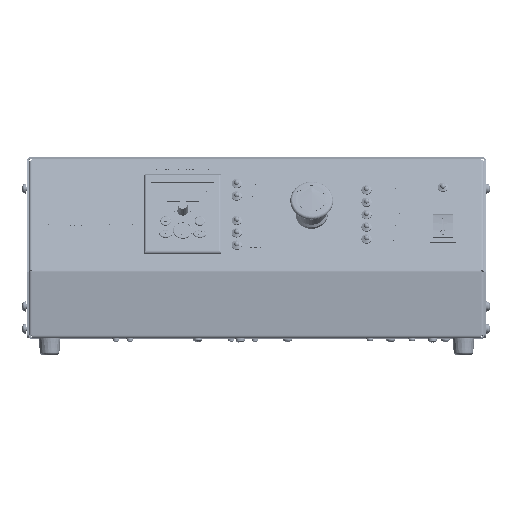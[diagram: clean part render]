
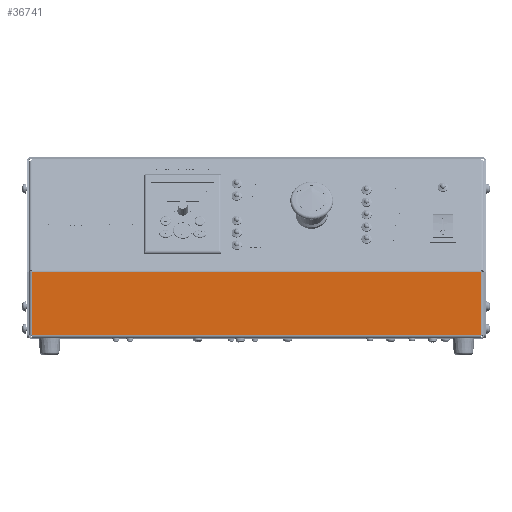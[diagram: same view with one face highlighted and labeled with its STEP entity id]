
A CAD part, top view. The second image highlights one B-rep face of the part: STEP entity #36741.
In plain terms, the highlighted planar face has unit normal (0, 0, 1).
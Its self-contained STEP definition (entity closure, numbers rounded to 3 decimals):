
#36741=ADVANCED_FACE('',(#268727),#268729,.F.);
#268727=FACE_BOUND('',#268728,.T.);
#268728=EDGE_LOOP('',(#471035,#471036,#471037,#471038));
#268729=PLANE('',#268730);
#268730=AXIS2_PLACEMENT_3D('',#268731,#268732,#268733);
#268731=CARTESIAN_POINT('',(0.,-167.299,170.));
#268732=DIRECTION('',(0.,0.,-1.));
#268733=DIRECTION('',(1.,0.,0.));
#471035=ORIENTED_EDGE('',*,*,#617129,.T.);
#471036=ORIENTED_EDGE('',*,*,#612257,.T.);
#471037=ORIENTED_EDGE('',*,*,#612205,.T.);
#471038=ORIENTED_EDGE('',*,*,#612541,.T.);
#612205=EDGE_CURVE('',#693018,#693019,#693020,.T.);
#612257=EDGE_CURVE('',#693099,#693018,#693100,.T.);
#612541=EDGE_CURVE('',#693019,#693525,#693527,.T.);
#617129=EDGE_CURVE('',#693525,#693099,#700712,.T.);
#693018=VERTEX_POINT('',#833349);
#693019=VERTEX_POINT('',#833350);
#693020=LINE('',#833351,#833352);
#693099=VERTEX_POINT('',#833553);
#693100=LINE('',#833554,#833555);
#693525=VERTEX_POINT('',#834649);
#693527=LINE('',#834654,#834655);
#700712=LINE('',#852909,#852910);
#833349=CARTESIAN_POINT('',(-210.,3.,170.));
#833350=CARTESIAN_POINT('',(210.,3.,170.));
#833351=CARTESIAN_POINT('',(-210.,3.,170.));
#833352=VECTOR('',#833353,1.);
#833353=DIRECTION('',(1.,0.,0.));
#833553=CARTESIAN_POINT('',(-210.,62.196,170.));
#833554=CARTESIAN_POINT('',(-210.,62.196,170.));
#833555=VECTOR('',#833556,1.);
#833556=DIRECTION('',(0.,-1.,0.));
#834649=CARTESIAN_POINT('',(210.,62.196,170.));
#834654=CARTESIAN_POINT('',(210.,3.,170.));
#834655=VECTOR('',#834656,1.);
#834656=DIRECTION('',(0.,1.,0.));
#852909=CARTESIAN_POINT('',(210.,62.196,170.));
#852910=VECTOR('',#852911,1.);
#852911=DIRECTION('',(-1.,0.,0.));
